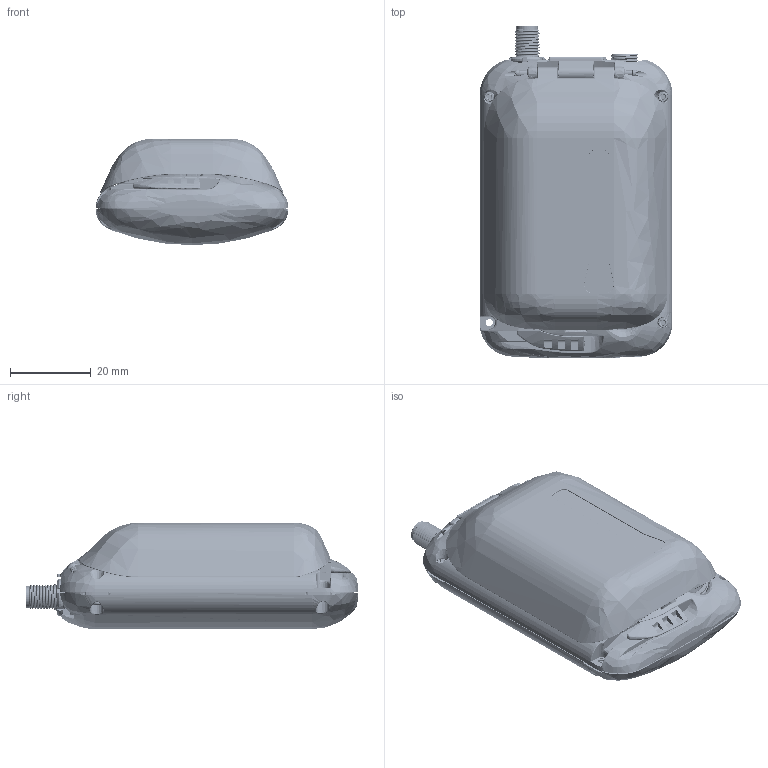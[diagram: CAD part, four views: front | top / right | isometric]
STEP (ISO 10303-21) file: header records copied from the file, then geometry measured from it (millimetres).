
FILE_DESCRIPTION(/* description */ (''),/* implementation_level */ '2;1');
FILE_NAME(/* name */ 'A20 MINI with Battery Doubler STEP.stp',/* time_stamp */ '2026-01-16T11:25:45-06:00',('The Cool People at Sound Devices'),(''),/* preprocessor_version */ 'ST-DEVELOPER v20.1',/* originating_system */ 'Autodesk Inventor 2026','Proprietary to Sound Devices LLC');
FILE_SCHEMA (('AUTOMOTIVE_DESIGN { 1 0 10303 214 3 1 1 }'));
Products named in the file (1): Solid 1
Bounding box: 47.8 x 82.31 x 26.35 mm (x, y, z)
Volume: 20456.5 mm3; surface area: 27799.2 mm2
Topology: 2 solids, 129 shells, 6551 faces, 17535 edges, 10808 vertices
Faces by surface type: plane 2558, bspline 2349, cylinder 1212, cone 248, torus 134, sphere 50
Full cylindrical faces by diameter (mm): 0.4 x14, 0.5 x3, 0.55 x4, 0.6 x2, 0.65 x4, 0.672 x1, 0.7 x7, 0.729 x1, 0.95 x1, 1.1 x2, 1.145 x32, 1.3 x1, 1.5 x1, 1.524 x1, 1.587 x9, 1.6 x2, 1.7 x3, 2.1 x4, 3 x3, 3.132 x1, 4.65 x1, 5.33 x1, 5.451 x2, 6 x8, 6.19 x9, 6.9 x5, 7 x1, 7.5 x1, 8.9 x2
Entity records: 380114 total; most frequent: CARTESIAN_POINT 229596, ORIENTED_EDGE 35028, DIRECTION 22707, EDGE_CURVE 17514, VERTEX_POINT 10808, AXIS2_PLACEMENT_3D 7618, LINE 7471, VECTOR 7471
